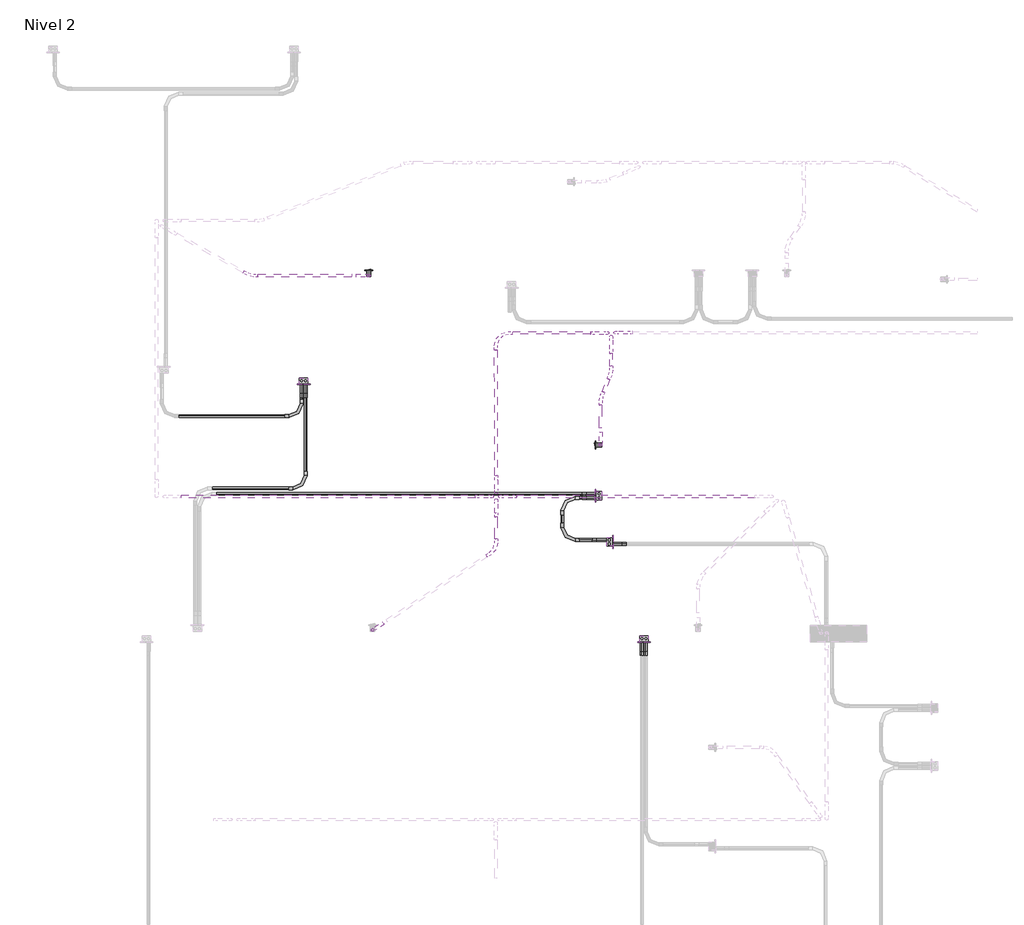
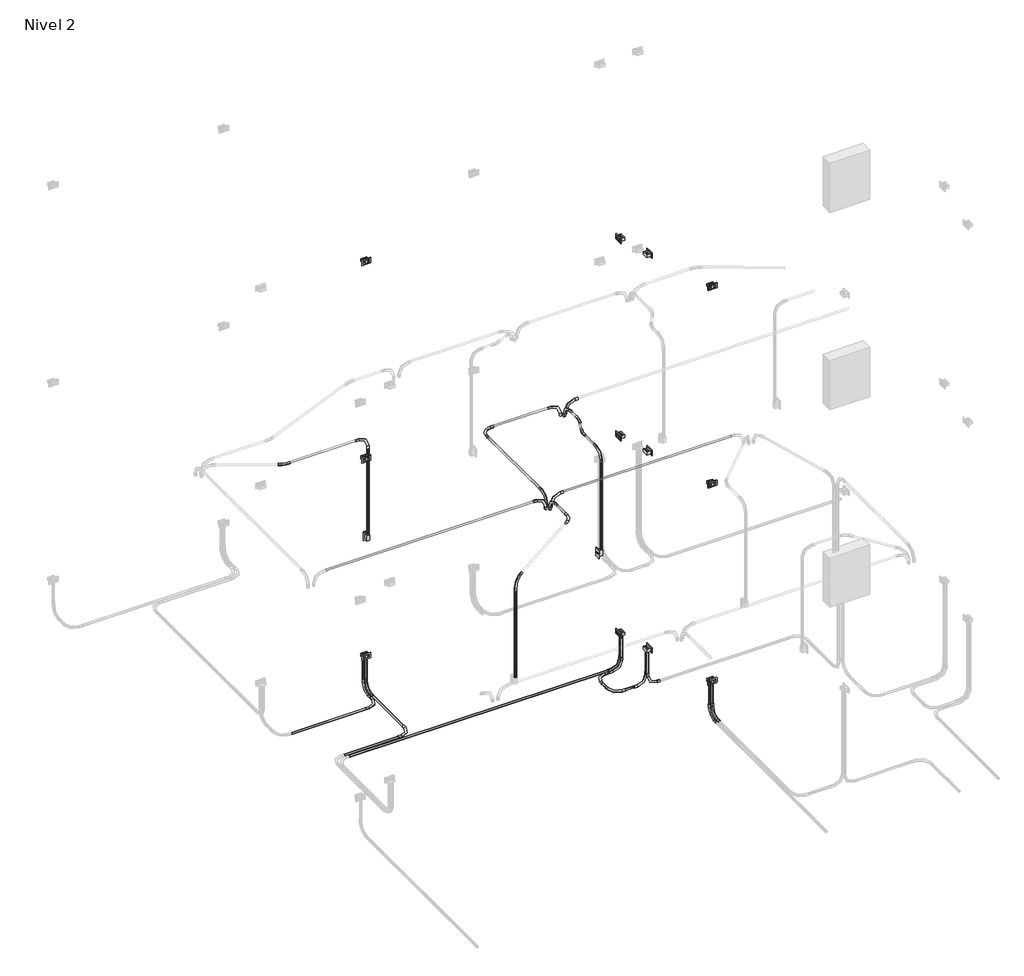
# One storey, part 8 of 10: 28 cable carrier segments, 27 cable carrier fittings, 12 proxies, 2 switching devices.
"""IFC4 building model written with IfcOpenShell, lengths in millimetres."""

from ifc_helpers import new_model, si_unit, point, frame, frame_2d, origin, place, context, project, spatial, circle_curve, trimmed, segment, composite_curve, outline, extrude, transform, mapped, element, save
from components import gfci_180f1b41, m_codo_de_tubo_extremo_liso_pvc_9da73e12, m_codo_de_tubo_extremo_liso_pvc_102f0f41, m_codo_de_tubo_extremo_liso_pvc_251627db, m_codo_de_tubo_extremo_liso_pvc_2ef7902a, m_codo_de_tubo_extremo_liso_pvc_be22f626, m_codo_de_tubo_extremo_liso_pvc_76d9b60b, switching_device_22fed34b

model = new_model("IFC4")

# Units and contexts
model_context = context("Model", 3, world=origin())
ifc_project = project(units=[si_unit("LENGTHUNIT", "METRE", prefix="MILLI")], contexts=[model_context])

# Site, building, storey
site = spatial("IfcSite", under=ifc_project)
building = spatial("IfcBuilding", under=site)
storey = spatial("IfcBuildingStorey", under=building, Name="Nivel 2", Elevation=2800.0)

# Proxies
placement = place(None, origin())
gfci_shape = gfci_180f1b41(model_context)
element("IfcBuildingElementProxy", 1, Name="Tomacorriente doble 220V : GFCI", ObjectType="Tomacorriente doble 220V : GFCI", at=placement, inside=storey, context=model_context, shape_type="MappedRepresentation", body=[
    mapped(gfci_shape, transform((675.4816931, 14533.4801072, 3200.0), x_axis=(0.0, 0.0, 1.0), y_axis=(-1.0, 0.0, 0.0), z_axis=(0.0, -1.0, 0.0))),
])
element("IfcBuildingElementProxy", 2, Name="Tomacorriente doble 220V : GFCI", ObjectType="Tomacorriente doble 220V : GFCI", at=placement, inside=storey, context=model_context, shape_type="MappedRepresentation", body=[
    mapped(gfci_shape, transform((3300.0005808, 13527.7405294, 3200.0), x_axis=(0.0, 0.0, 1.0), y_axis=(0.0, 1.0, 0.0), z_axis=(-1.0, 0.0, 0.0))),
])
element("IfcBuildingElementProxy", 3, Name="Tomacorriente doble 220V : GFCI", ObjectType="Tomacorriente doble 220V : GFCI", at=placement, inside=storey, context=model_context, shape_type="MappedRepresentation", body=[
    mapped(gfci_shape, transform((3732.031495, 12215.0, 3200.0), x_axis=(0.0, 0.0, 1.0), y_axis=(-1.0, 0.0, 0.0), z_axis=(0.0, -1.0, 0.0))),
])
element("IfcBuildingElementProxy", 4, Name="Tomacorriente doble 220V : GFCI", ObjectType="Tomacorriente doble 220V : GFCI", at=placement, inside=storey, context=model_context, shape_type="MappedRepresentation", body=[
    mapped(gfci_shape, transform((3450.0005808, 13113.3109987, 3200.0), x_axis=(0.0, 0.0, 1.0), y_axis=(0.0, -1.0, 0.0), z_axis=(1.0, 0.0, 0.0))),
])
element("IfcBuildingElementProxy", 5, Name="Tomacorriente doble 220V : GFCI", ObjectType="Tomacorriente doble 220V : GFCI", at=placement, inside=storey, context=model_context, shape_type="MappedRepresentation", body=[
    mapped(gfci_shape, transform((675.4816931, 14533.4801072, 5850.0), x_axis=(0.0, 0.0, 1.0), y_axis=(-1.0, 0.0, 0.0), z_axis=(0.0, -1.0, 0.0))),
])
element("IfcBuildingElementProxy", 6, Name="Tomacorriente doble 220V : GFCI", ObjectType="Tomacorriente doble 220V : GFCI", at=placement, inside=storey, context=model_context, shape_type="MappedRepresentation", body=[
    mapped(gfci_shape, transform((3300.0005808, 13527.7405294, 5850.0), x_axis=(0.0, 0.0, 1.0), y_axis=(0.0, 1.0, 0.0), z_axis=(-1.0, 0.0, 0.0))),
])
element("IfcBuildingElementProxy", 7, Name="Tomacorriente doble 220V : GFCI", ObjectType="Tomacorriente doble 220V : GFCI", at=placement, inside=storey, context=model_context, shape_type="MappedRepresentation", body=[
    mapped(gfci_shape, transform((3732.031495, 12215.0, 5850.0), x_axis=(0.0, 0.0, 1.0), y_axis=(-1.0, 0.0, 0.0), z_axis=(0.0, -1.0, 0.0))),
])
element("IfcBuildingElementProxy", 8, Name="Tomacorriente doble 220V : GFCI", ObjectType="Tomacorriente doble 220V : GFCI", at=placement, inside=storey, context=model_context, shape_type="MappedRepresentation", body=[
    mapped(gfci_shape, transform((3450.0005808, 13113.3109987, 5850.0), x_axis=(0.0, 0.0, 1.0), y_axis=(0.0, -1.0, 0.0), z_axis=(1.0, 0.0, 0.0))),
])
element("IfcBuildingElementProxy", 9, Name="Tomacorriente doble 220V : GFCI", ObjectType="Tomacorriente doble 220V : GFCI", at=placement, inside=storey, context=model_context, shape_type="MappedRepresentation", body=[
    mapped(gfci_shape, transform((675.4816931, 14533.4801072, 8500.0), x_axis=(0.0, 0.0, 1.0), y_axis=(-1.0, 0.0, 0.0), z_axis=(0.0, -1.0, 0.0))),
])
element("IfcBuildingElementProxy", 10, Name="Tomacorriente doble 220V : GFCI", ObjectType="Tomacorriente doble 220V : GFCI", at=placement, inside=storey, context=model_context, shape_type="MappedRepresentation", body=[
    mapped(gfci_shape, transform((3300.0005808, 13527.7405294, 8500.0), x_axis=(0.0, 0.0, 1.0), y_axis=(0.0, 1.0, 0.0), z_axis=(-1.0, 0.0, 0.0))),
])
element("IfcBuildingElementProxy", 11, Name="Tomacorriente doble 220V : GFCI", ObjectType="Tomacorriente doble 220V : GFCI", at=placement, inside=storey, context=model_context, shape_type="MappedRepresentation", body=[
    mapped(gfci_shape, transform((3732.031495, 12215.0, 8500.0), x_axis=(0.0, 0.0, 1.0), y_axis=(-1.0, 0.0, 0.0), z_axis=(0.0, -1.0, 0.0))),
])
element("IfcBuildingElementProxy", 12, Name="Tomacorriente doble 220V : GFCI", ObjectType="Tomacorriente doble 220V : GFCI", at=placement, inside=storey, context=model_context, shape_type="MappedRepresentation", body=[
    mapped(gfci_shape, transform((3450.0005808, 13113.3109987, 8500.0), x_axis=(0.0, 0.0, 1.0), y_axis=(0.0, -1.0, 0.0), z_axis=(1.0, 0.0, 0.0))),
])

# Cable carrier fittings
m_codo_de_tubo_extremo_liso_pvc_shape = m_codo_de_tubo_extremo_liso_pvc_9da73e12(model_context)
element("IfcCableCarrierFitting", 13, ObjectType="M_Codo de tubo - Extremo liso - PVC : CODO POTENCIA", at=placement, inside=storey, context=model_context, shape_type="MappedRepresentation", body=[
    mapped(m_codo_de_tubo_extremo_liso_pvc_shape, transform((693.5135129, 14563.117219, 2730.0), x_axis=(0.0, 0.0, -1.0), y_axis=(0.0, -1.0, 0.0), z_axis=(-1.0, 0.0, 0.0))),
])
element("IfcCableCarrierFitting", 14, ObjectType="M_Codo de tubo - Extremo liso - PVC : CODO POTENCIA", at=placement, inside=storey, context=model_context, shape_type="MappedRepresentation", body=[
    mapped(m_codo_de_tubo_extremo_liso_pvc_shape, transform((657.4498733, 14563.117219, 2730.0), x_axis=(0.0, 0.0, -1.0), y_axis=(0.0, -1.0, 0.0), z_axis=(-1.0, 0.0, 0.0))),
])
element("IfcCableCarrierFitting", 15, ObjectType="M_Codo de tubo - Extremo liso - PVC : CODO POTENCIA", at=placement, inside=storey, context=model_context, shape_type="MappedRepresentation", body=[
    mapped(m_codo_de_tubo_extremo_liso_pvc_shape, transform((3750.0633148, 12244.6371118, 2730.0), x_axis=(0.0, 0.0, -1.0), y_axis=(0.0, -1.0, 0.0), z_axis=(-1.0, 0.0, 0.0))),
])
element("IfcCableCarrierFitting", 16, ObjectType="M_Codo de tubo - Extremo liso - PVC : CODO POTENCIA", at=placement, inside=storey, context=model_context, shape_type="MappedRepresentation", body=[
    mapped(m_codo_de_tubo_extremo_liso_pvc_shape, transform((3713.9996751, 12244.6371118, 2730.0), x_axis=(0.0, 0.0, -1.0), y_axis=(0.0, -1.0, 0.0), z_axis=(-1.0, 0.0, 0.0))),
])
element("IfcCableCarrierFitting", 17, ObjectType="M_Codo de tubo - Extremo liso - PVC : CODO POTENCIA", at=placement, inside=storey, context=model_context, shape_type="MappedRepresentation", body=[
    mapped(m_codo_de_tubo_extremo_liso_pvc_shape, transform((3420.363469, 13095.2791789, 2730.0), x_axis=(0.0, 0.0, -1.0), y_axis=(1.0, 0.0, 0.0), z_axis=(0.0, -1.0, 0.0))),
])
element("IfcCableCarrierFitting", 18, ObjectType="M_Codo de tubo - Extremo liso - PVC : CODO POTENCIA", at=placement, inside=storey, context=model_context, shape_type="MappedRepresentation", body=[
    mapped(m_codo_de_tubo_extremo_liso_pvc_shape, transform((3329.6376926, 13509.7087096, 2730.0), x_axis=(0.0, 0.0, -1.0), y_axis=(-1.0, 0.0, 0.0), z_axis=(0.0, 1.0, 0.0))),
])
element("IfcCableCarrierFitting", 19, ObjectType="M_Codo de tubo - Extremo liso - PVC : CODO POTENCIA", at=placement, inside=storey, context=model_context, shape_type="MappedRepresentation", body=[
    mapped(m_codo_de_tubo_extremo_liso_pvc_shape, transform((3329.6376926, 13545.7723493, 2730.0), x_axis=(0.0, 0.0, -1.0), y_axis=(-1.0, 0.0, 0.0), z_axis=(0.0, 1.0, 0.0))),
])
element("IfcCableCarrierFitting", 20, ObjectType="M_Codo de tubo - Extremo liso - PVC : CODO POTENCIA", at=placement, inside=storey, context=model_context, shape_type="MappedRepresentation", body=[
    mapped(m_codo_de_tubo_extremo_liso_pvc_shape, transform((3000.0, 13509.7087096, 2730.0), x_axis=(-1.0, 0.0, 0.0), y_axis=(0.0, -1.0, 0.0), z_axis=(0.0, 0.0, 1.0))),
])
element("IfcCableCarrierFitting", 21, ObjectType="M_Codo de tubo - Extremo liso - PVC : CODO POTENCIA", at=placement, inside=storey, context=model_context, shape_type="MappedRepresentation", body=[
    mapped(m_codo_de_tubo_extremo_liso_pvc_shape, transform((3000.0, 13131.3428185, 2730.0), x_axis=(0.0, -1.0, 0.0), y_axis=(1.0, 0.0, 0.0), z_axis=(0.0, 0.0, 1.0))),
])
element("IfcCableCarrierFitting", 22, ObjectType="M_Codo de tubo - Extremo liso - PVC : CODO POTENCIA", at=placement, inside=storey, context=model_context, shape_type="MappedRepresentation", body=[
    mapped(m_codo_de_tubo_extremo_liso_pvc_shape, transform((3420.363469, 13131.3428185, 2730.0), x_axis=(0.0, 0.0, -1.0), y_axis=(-1.0, 0.0, 0.0), z_axis=(0.0, 1.0, 0.0))),
])
element("IfcCableCarrierFitting", 23, ObjectType="M_Codo de tubo - Extremo liso - PVC : CODO POTENCIA", at=placement, inside=storey, context=model_context, shape_type="MappedRepresentation", body=[
    mapped(m_codo_de_tubo_extremo_liso_pvc_shape, transform((693.5135129, 13596.0465616, 2730.0), x_axis=(1.0, 0.0, 0.0), y_axis=(0.0, 1.0, 0.0), z_axis=(0.0, 0.0, 1.0))),
])
element("IfcCableCarrierFitting", 24, ObjectType="M_Codo de tubo - Extremo liso - PVC : CODO POTENCIA", at=placement, inside=storey, context=model_context, shape_type="MappedRepresentation", body=[
    mapped(m_codo_de_tubo_extremo_liso_pvc_shape, transform((657.4498733, 14243.117219, 2730.0), x_axis=(1.0, 0.0, 0.0), y_axis=(0.0, 1.0, 0.0), z_axis=(0.0, 0.0, 1.0))),
])
element("IfcCableCarrierFitting", 25, ObjectType="M_Codo de tubo - Extremo liso - PVC : CODO ILUMINACION", at=placement, inside=storey, context=model_context, shape_type="MappedRepresentation", body=[
    mapped(m_codo_de_tubo_extremo_liso_pvc_shape, transform((3473.8320808, 14993.0705266, 5350.0), x_axis=(-1.0, 0.0, 0.0), y_axis=(0.0, 0.0, -1.0), z_axis=(0.0, -1.0, 0.0))),
])
element("IfcCableCarrierFitting", 26, ObjectType="M_Codo de tubo - Extremo liso - PVC : CODO ILUMINACION", at=placement, inside=storey, context=model_context, shape_type="MappedRepresentation", body=[
    mapped(m_codo_de_tubo_extremo_liso_pvc_shape, transform((2437.1421514, 13521.2601744, 5350.0), x_axis=(-1.0, 0.0, 0.0), y_axis=(0.0, 0.0, -1.0), z_axis=(0.0, -1.0, 0.0))),
])
element("IfcCableCarrierFitting", 27, ObjectType="M_Codo de tubo - Extremo liso - PVC : CODO ILUMINACION", at=placement, inside=storey, context=model_context, shape_type="MappedRepresentation", body=[
    mapped(m_codo_de_tubo_extremo_liso_pvc_shape, transform((1260.0916868, 15506.8611243, 5350.0), x_axis=(0.0, 0.0, 1.0), y_axis=(-1.0, 0.0, 0.0), z_axis=(0.0, -1.0, 0.0))),
])
element("IfcCableCarrierFitting", 28, ObjectType="M_Codo de tubo - Extremo liso - PVC : CODO ILUMINACION", at=placement, inside=storey, context=model_context, shape_type="MappedRepresentation", body=[
    mapped(m_codo_de_tubo_extremo_liso_pvc_shape, transform((3343.1394564, 13985.3219698, 5350.0), x_axis=(0.0, 0.0, 1.0), y_axis=(0.0, 1.0, 0.0), z_axis=(-1.0, 0.0, 0.0))),
])
element("IfcCableCarrierFitting", 29, ObjectType="M_Codo de tubo - Extremo liso - PVC : CODO ILUMINACION", at=placement, inside=storey, context=model_context, shape_type="MappedRepresentation", body=[
    mapped(m_codo_de_tubo_extremo_liso_pvc_shape, transform((2405.2097778, 13557.4891468, 5350.0), x_axis=(0.003624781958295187, -0.9999934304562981, 0.0), y_axis=(0.0, 0.0, -1.0000000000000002), z_axis=(0.9999934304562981, 0.003624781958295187, 0.0))),
])
element("IfcCableCarrierFitting", 30, ObjectType="M_Codo de tubo - Extremo liso - PVC : CODO ILUMINACION", at=placement, inside=storey, context=model_context, shape_type="MappedRepresentation", body=[
    mapped(m_codo_de_tubo_extremo_liso_pvc_shape, transform((1294.5944838, 12321.8611243, 5350.0), x_axis=(0.0, 0.0, 1.0), y_axis=(0.8386705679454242, 0.5446390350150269, 0.0), z_axis=(-0.5446390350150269, 0.8386705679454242, 0.0))),
])
m_codo_de_tubo_extremo_liso_pvc_2_shape = m_codo_de_tubo_extremo_liso_pvc_102f0f41(model_context)
element("IfcCableCarrierFitting", 31, ObjectType="M_Codo de tubo - Extremo liso - PVC : CODO ILUMINACION", at=placement, inside=storey, context=model_context, shape_type="MappedRepresentation", body=[
    mapped(m_codo_de_tubo_extremo_liso_pvc_2_shape, transform((3405.7998975, 14991.7385915, 5350.0), x_axis=(1.0, 0.0, 0.0), y_axis=(0.0, 0.0, 1.0), z_axis=(0.0, -1.0, 0.0))),
])
element("IfcCableCarrierFitting", 32, ObjectType="M_Codo de tubo - Extremo liso - PVC : CODO ILUMINACION", at=placement, inside=storey, context=model_context, shape_type="MappedRepresentation", body=[
    mapped(m_codo_de_tubo_extremo_liso_pvc_2_shape, transform((2369.1118904, 13521.2601744, 5350.0), x_axis=(1.0, 0.0, 0.0), y_axis=(0.0, 0.0, 1.0), z_axis=(0.0, -1.0, 0.0))),
])
element("IfcCableCarrierFitting", 33, ObjectType="M_Codo de tubo - Extremo liso - PVC : CODO ILUMINACION", at=placement, inside=storey, context=model_context, shape_type="MappedRepresentation", body=[
    mapped(m_codo_de_tubo_extremo_liso_pvc_2_shape, transform((3437.3696394, 14959.3016042, 5350.0), x_axis=(0.0, 1.0, 0.0), y_axis=(0.0, 0.0, 1.0), z_axis=(1.0, 0.0, 0.0))),
])
element("IfcCableCarrierFitting", 34, ObjectType="M_Codo de tubo - Extremo liso - PVC : CODO ILUMINACION", at=placement, inside=storey, context=model_context, shape_type="MappedRepresentation", body=[
    mapped(m_codo_de_tubo_extremo_liso_pvc_2_shape, transform((2405.2097778, 13489.4433397, 5350.0), x_axis=(0.003624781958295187, 0.9999934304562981, 0.0), y_axis=(0.0, 0.0, 1.0000000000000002), z_axis=(0.9999934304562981, -0.003624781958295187, 0.0))),
])
m_codo_de_tubo_extremo_liso_pvc_3_shape = m_codo_de_tubo_extremo_liso_pvc_251627db(model_context)
element("IfcCableCarrierFitting", 35, ObjectType="M_Codo de tubo - Extremo liso - PVC : CODO ILUMINACION", at=placement, inside=storey, context=model_context, shape_type="MappedRepresentation", body=[
    mapped(m_codo_de_tubo_extremo_liso_pvc_3_shape, transform((196.8317011, 15506.8611243, 5350.0), x_axis=(0.8722808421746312, -0.48900524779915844, 0.0), y_axis=(0.48900524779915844, 0.8722808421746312, 0.0), z_axis=(0.0, 0.0, 1.0))),
])
m_codo_de_tubo_extremo_liso_pvc_4_shape = m_codo_de_tubo_extremo_liso_pvc_2ef7902a(model_context)
element("IfcCableCarrierFitting", 36, ObjectType="M_Codo de tubo - Extremo liso - PVC : CODO ILUMINACION", at=placement, inside=storey, context=model_context, shape_type="MappedRepresentation", body=[
    mapped(m_codo_de_tubo_extremo_liso_pvc_4_shape, transform((3437.3696394, 14633.0300725, 5350.0), x_axis=(0.38237306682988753, 0.924008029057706, 0.0), y_axis=(-0.924008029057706, 0.38237306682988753, 0.0), z_axis=(0.0, 0.0, 1.0))),
])
element("IfcCableCarrierFitting", 37, ObjectType="M_Codo de tubo - Extremo liso - PVC : CODO ILUMINACION", at=placement, inside=storey, context=model_context, shape_type="MappedRepresentation", body=[
    mapped(m_codo_de_tubo_extremo_liso_pvc_4_shape, transform((3343.1394564, 14405.3219698, 5350.0), x_axis=(-0.3823730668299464, -0.9240080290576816, 0.0), y_axis=(0.9240080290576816, -0.3823730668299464, 0.0), z_axis=(0.0, 0.0, 1.0))),
])
m_codo_de_tubo_extremo_liso_pvc_5_shape = m_codo_de_tubo_extremo_liso_pvc_be22f626(model_context)
element("IfcCableCarrierFitting", 38, ObjectType="M_Codo de tubo - Extremo liso - PVC : CODO ILUMINACION", at=placement, inside=storey, context=model_context, shape_type="MappedRepresentation", body=[
    mapped(m_codo_de_tubo_extremo_liso_pvc_5_shape, transform((2400.0109021, 14991.7385915, 5350.0), x_axis=(-1.0, 0.0, 0.0), y_axis=(0.0, -1.0, 0.0), z_axis=(0.0, 0.0, 1.0))),
])
m_codo_de_tubo_extremo_liso_pvc_6_shape = m_codo_de_tubo_extremo_liso_pvc_76d9b60b(model_context)
element("IfcCableCarrierFitting", 39, ObjectType="M_Codo de tubo - Extremo liso - PVC : CODO ILUMINACION", at=placement, inside=storey, context=model_context, shape_type="MappedRepresentation", body=[
    mapped(m_codo_de_tubo_extremo_liso_pvc_6_shape, transform((2403.5880638, 13042.049976, 5350.0), x_axis=(0.8386705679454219, 0.5446390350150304, 0.0), y_axis=(-0.5446390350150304, 0.8386705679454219, 0.0), z_axis=(0.0, 0.0, 1.0))),
])

# Cable carrier segments
element("IfcCableCarrierSegment", 40, ObjectType="PVC-SEL, POTENCIA", at=placement, inside=storey, context=model_context, shape_type="SweptSolid", body=[
    extrude(outline(composite_curve([segment(trimmed(circle_curve(frame_2d((2730.0, 693.5135129)), 11.71), [point((2730.0, 681.8035129))], [point((2718.29, 693.5135129))], False, "CARTESIAN"), True, "CONTINUOUS"), segment(trimmed(circle_curve(frame_2d((2730.0, 693.5135129)), 11.71), [point((2718.29, 693.5135129))], [point((2730.0, 705.2235129))], False, "CARTESIAN"), True, "CONTINUOUS"), segment(trimmed(circle_curve(frame_2d((2730.0, 693.5135129)), 11.71), [point((2730.0, 705.2235129))], [point((2741.71, 693.5135129))], False, "CARTESIAN"), True, "CONTINUOUS"), segment(trimmed(circle_curve(frame_2d((2730.0, 693.5135129)), 11.71), [point((2741.71, 693.5135129))], [point((2730.0, 681.8035129))], False, "CARTESIAN"), True, "CONTINUOUS")], self_intersect=False)), frame((0.0, 13748.4465616, 0.0), z_axis=(0.0, 1.0, 0.0), x_axis=(0.0, 0.0, 1.0)), (0.0, 0.0, 1.0), 662.2706574),
])
element("IfcCableCarrierSegment", 41, ObjectType="PVC-SEL, POTENCIA", at=placement, inside=storey, context=model_context, shape_type="SweptSolid", body=[
    extrude(outline(composite_curve([segment(trimmed(circle_curve(frame_2d((693.5135129, 14563.117219)), 11.71), [point((705.2235129, 14563.117219))], [point((693.5135129, 14551.407219))], False, "CARTESIAN"), True, "CONTINUOUS"), segment(trimmed(circle_curve(frame_2d((693.5135129, 14563.117219)), 11.71), [point((693.5135129, 14551.407219))], [point((681.8035129, 14563.117219))], False, "CARTESIAN"), True, "CONTINUOUS"), segment(trimmed(circle_curve(frame_2d((693.5135129, 14563.117219)), 11.71), [point((681.8035129, 14563.117219))], [point((693.5135129, 14574.827219))], False, "CARTESIAN"), True, "CONTINUOUS"), segment(trimmed(circle_curve(frame_2d((693.5135129, 14563.117219)), 11.71), [point((693.5135129, 14574.827219))], [point((705.2235129, 14563.117219))], False, "CARTESIAN"), True, "CONTINUOUS")], self_intersect=False)), frame((0.0, 0.0, 2882.4), z_axis=(0.0, 0.0, 1.0), x_axis=(1.0, 0.0, 0.0)), (0.0, 0.0, 1.0), 297.3020537),
])
element("IfcCableCarrierSegment", 42, ObjectType="PVC-SEL, POTENCIA", at=placement, inside=storey, context=model_context, shape_type="SweptSolid", body=[
    extrude(outline(composite_curve([segment(trimmed(circle_curve(frame_2d((2730.0, 657.4498733)), 11.71), [point((2730.0, 645.7398733))], [point((2718.29, 657.4498733))], False, "CARTESIAN"), True, "CONTINUOUS"), segment(trimmed(circle_curve(frame_2d((2730.0, 657.4498733)), 11.71), [point((2718.29, 657.4498733))], [point((2730.0, 669.1598733))], False, "CARTESIAN"), True, "CONTINUOUS"), segment(trimmed(circle_curve(frame_2d((2730.0, 657.4498733)), 11.71), [point((2730.0, 669.1598733))], [point((2741.71, 657.4498733))], False, "CARTESIAN"), True, "CONTINUOUS"), segment(trimmed(circle_curve(frame_2d((2730.0, 657.4498733)), 11.71), [point((2741.71, 657.4498733))], [point((2730.0, 645.7398733))], False, "CARTESIAN"), True, "CONTINUOUS")], self_intersect=False)), frame((0.0, 14395.517219, 0.0), z_axis=(0.0, 1.0, 0.0), x_axis=(0.0, 0.0, 1.0)), (0.0, 0.0, 1.0), 15.2),
])
element("IfcCableCarrierSegment", 43, ObjectType="PVC-SEL, POTENCIA", at=placement, inside=storey, context=model_context, shape_type="SweptSolid", body=[
    extrude(outline(composite_curve([segment(trimmed(circle_curve(frame_2d((657.4498733, 14563.117219)), 11.71), [point((669.1598733, 14563.117219))], [point((657.4498733, 14551.407219))], False, "CARTESIAN"), True, "CONTINUOUS"), segment(trimmed(circle_curve(frame_2d((657.4498733, 14563.117219)), 11.71), [point((657.4498733, 14551.407219))], [point((645.7398733, 14563.117219))], False, "CARTESIAN"), True, "CONTINUOUS"), segment(trimmed(circle_curve(frame_2d((657.4498733, 14563.117219)), 11.71), [point((645.7398733, 14563.117219))], [point((657.4498733, 14574.827219))], False, "CARTESIAN"), True, "CONTINUOUS"), segment(trimmed(circle_curve(frame_2d((657.4498733, 14563.117219)), 11.71), [point((657.4498733, 14574.827219))], [point((669.1598733, 14563.117219))], False, "CARTESIAN"), True, "CONTINUOUS")], self_intersect=False)), frame((0.0, 0.0, 2882.4), z_axis=(0.0, 0.0, 1.0), x_axis=(1.0, 0.0, 0.0)), (0.0, 0.0, 1.0), 297.3020537),
])
element("IfcCableCarrierSegment", 44, ObjectType="PVC-SEL, POTENCIA", at=placement, inside=storey, context=model_context, shape_type="SweptSolid", body=[
    extrude(outline(composite_curve([segment(trimmed(circle_curve(frame_2d((3750.0633148, 12244.6371118)), 11.71), [point((3761.7733148, 12244.6371118))], [point((3750.0633148, 12232.9271118))], False, "CARTESIAN"), True, "CONTINUOUS"), segment(trimmed(circle_curve(frame_2d((3750.0633148, 12244.6371118)), 11.71), [point((3750.0633148, 12232.9271118))], [point((3738.3533148, 12244.6371118))], False, "CARTESIAN"), True, "CONTINUOUS"), segment(trimmed(circle_curve(frame_2d((3750.0633148, 12244.6371118)), 11.71), [point((3738.3533148, 12244.6371118))], [point((3750.0633148, 12256.3471118))], False, "CARTESIAN"), True, "CONTINUOUS"), segment(trimmed(circle_curve(frame_2d((3750.0633148, 12244.6371118)), 11.71), [point((3750.0633148, 12256.3471118))], [point((3761.7733148, 12244.6371118))], False, "CARTESIAN"), True, "CONTINUOUS")], self_intersect=False)), frame((0.0, 0.0, 2882.4), z_axis=(0.0, 0.0, 1.0), x_axis=(1.0, 0.0, 0.0)), (0.0, 0.0, 1.0), 297.3020537),
])
element("IfcCableCarrierSegment", 45, ObjectType="PVC-SEL, POTENCIA", at=placement, inside=storey, context=model_context, shape_type="SweptSolid", body=[
    extrude(outline(composite_curve([segment(trimmed(circle_curve(frame_2d((3713.9996751, 12244.6371118)), 11.71), [point((3725.7096751, 12244.6371118))], [point((3713.9996751, 12232.9271118))], False, "CARTESIAN"), True, "CONTINUOUS"), segment(trimmed(circle_curve(frame_2d((3713.9996751, 12244.6371118)), 11.71), [point((3713.9996751, 12232.9271118))], [point((3702.2896751, 12244.6371118))], False, "CARTESIAN"), True, "CONTINUOUS"), segment(trimmed(circle_curve(frame_2d((3713.9996751, 12244.6371118)), 11.71), [point((3702.2896751, 12244.6371118))], [point((3713.9996751, 12256.3471118))], False, "CARTESIAN"), True, "CONTINUOUS"), segment(trimmed(circle_curve(frame_2d((3713.9996751, 12244.6371118)), 11.71), [point((3713.9996751, 12256.3471118))], [point((3725.7096751, 12244.6371118))], False, "CARTESIAN"), True, "CONTINUOUS")], self_intersect=False)), frame((0.0, 0.0, 2882.4), z_axis=(0.0, 0.0, 1.0), x_axis=(1.0, 0.0, 0.0)), (0.0, 0.0, 1.0), 297.3020537),
])
element("IfcCableCarrierSegment", 46, ObjectType="PVC-SEL, POTENCIA", at=placement, inside=storey, context=model_context, shape_type="SweptSolid", body=[
    extrude(outline(composite_curve([segment(trimmed(circle_curve(frame_2d((3420.363469, 13095.2791789)), 11.71), [point((3432.073469, 13095.2791789))], [point((3420.363469, 13083.5691789))], False, "CARTESIAN"), True, "CONTINUOUS"), segment(trimmed(circle_curve(frame_2d((3420.363469, 13095.2791789)), 11.71), [point((3420.363469, 13083.5691789))], [point((3408.653469, 13095.2791789))], False, "CARTESIAN"), True, "CONTINUOUS"), segment(trimmed(circle_curve(frame_2d((3420.363469, 13095.2791789)), 11.71), [point((3408.653469, 13095.2791789))], [point((3420.363469, 13106.9891789))], False, "CARTESIAN"), True, "CONTINUOUS"), segment(trimmed(circle_curve(frame_2d((3420.363469, 13095.2791789)), 11.71), [point((3420.363469, 13106.9891789))], [point((3432.073469, 13095.2791789))], False, "CARTESIAN"), True, "CONTINUOUS")], self_intersect=False)), frame((0.0, 0.0, 2882.4), z_axis=(0.0, 0.0, 1.0), x_axis=(1.0, 0.0, 0.0)), (0.0, 0.0, 1.0), 297.3020537),
])
element("IfcCableCarrierSegment", 47, ObjectType="PVC-SEL, POTENCIA", at=placement, inside=storey, context=model_context, shape_type="SweptSolid", body=[
    extrude(outline(composite_curve([segment(trimmed(circle_curve(frame_2d((13131.3428185, 2730.0)), 11.71), [point((13119.6328185, 2730.0))], [point((13131.3428185, 2741.71))], False, "CARTESIAN"), True, "CONTINUOUS"), segment(trimmed(circle_curve(frame_2d((13131.3428185, 2730.0)), 11.71), [point((13131.3428185, 2741.71))], [point((13143.0528185, 2730.0))], False, "CARTESIAN"), True, "CONTINUOUS"), segment(trimmed(circle_curve(frame_2d((13131.3428185, 2730.0)), 11.71), [point((13143.0528185, 2730.0))], [point((13131.3428185, 2718.29))], False, "CARTESIAN"), True, "CONTINUOUS"), segment(trimmed(circle_curve(frame_2d((13131.3428185, 2730.0)), 11.71), [point((13131.3428185, 2718.29))], [point((13119.6328185, 2730.0))], False, "CARTESIAN"), True, "CONTINUOUS")], self_intersect=False)), frame((3152.4, 0.0, 0.0), z_axis=(1.0, 0.0, 0.0), x_axis=(0.0, 1.0, 0.0)), (0.0, 0.0, 1.0), 115.563469),
])
element("IfcCableCarrierSegment", 48, ObjectType="PVC-SEL, POTENCIA", at=placement, inside=storey, context=model_context, shape_type="SweptSolid", body=[
    extrude(outline(composite_curve([segment(trimmed(circle_curve(frame_2d((3420.363469, 13131.3428185)), 11.71), [point((3432.073469, 13131.3428185))], [point((3420.363469, 13119.6328185))], False, "CARTESIAN"), True, "CONTINUOUS"), segment(trimmed(circle_curve(frame_2d((3420.363469, 13131.3428185)), 11.71), [point((3420.363469, 13119.6328185))], [point((3408.653469, 13131.3428185))], False, "CARTESIAN"), True, "CONTINUOUS"), segment(trimmed(circle_curve(frame_2d((3420.363469, 13131.3428185)), 11.71), [point((3408.653469, 13131.3428185))], [point((3420.363469, 13143.0528185))], False, "CARTESIAN"), True, "CONTINUOUS"), segment(trimmed(circle_curve(frame_2d((3420.363469, 13131.3428185)), 11.71), [point((3420.363469, 13143.0528185))], [point((3432.073469, 13131.3428185))], False, "CARTESIAN"), True, "CONTINUOUS")], self_intersect=False)), frame((0.0, 0.0, 2882.4), z_axis=(0.0, 0.0, 1.0), x_axis=(1.0, 0.0, 0.0)), (0.0, 0.0, 1.0), 297.3020537),
])
element("IfcCableCarrierSegment", 49, ObjectType="PVC-SEL, POTENCIA", at=placement, inside=storey, context=model_context, shape_type="SweptSolid", body=[
    extrude(outline(composite_curve([segment(trimmed(circle_curve(frame_2d((13509.7087096, 2730.0)), 11.71), [point((13521.4187096, 2730.0))], [point((13509.7087096, 2718.29))], False, "CARTESIAN"), True, "CONTINUOUS"), segment(trimmed(circle_curve(frame_2d((13509.7087096, 2730.0)), 11.71), [point((13509.7087096, 2718.29))], [point((13497.9987096, 2730.0))], False, "CARTESIAN"), True, "CONTINUOUS"), segment(trimmed(circle_curve(frame_2d((13509.7087096, 2730.0)), 11.71), [point((13497.9987096, 2730.0))], [point((13509.7087096, 2741.71))], False, "CARTESIAN"), True, "CONTINUOUS"), segment(trimmed(circle_curve(frame_2d((13509.7087096, 2730.0)), 11.71), [point((13509.7087096, 2741.71))], [point((13521.4187096, 2730.0))], False, "CARTESIAN"), True, "CONTINUOUS")], self_intersect=False)), frame((3152.4, 0.0, 0.0), z_axis=(1.0, 0.0, 0.0), x_axis=(0.0, 1.0, 0.0)), (0.0, 0.0, 1.0), 24.8376926),
])
element("IfcCableCarrierSegment", 50, ObjectType="PVC-SEL, POTENCIA", at=placement, inside=storey, context=model_context, shape_type="SweptSolid", body=[
    extrude(outline(composite_curve([segment(trimmed(circle_curve(frame_2d((3329.6376926, 13509.7087096)), 11.71), [point((3341.3476926, 13509.7087096))], [point((3329.6376926, 13497.9987096))], False, "CARTESIAN"), True, "CONTINUOUS"), segment(trimmed(circle_curve(frame_2d((3329.6376926, 13509.7087096)), 11.71), [point((3329.6376926, 13497.9987096))], [point((3317.9276926, 13509.7087096))], False, "CARTESIAN"), True, "CONTINUOUS"), segment(trimmed(circle_curve(frame_2d((3329.6376926, 13509.7087096)), 11.71), [point((3317.9276926, 13509.7087096))], [point((3329.6376926, 13521.4187096))], False, "CARTESIAN"), True, "CONTINUOUS"), segment(trimmed(circle_curve(frame_2d((3329.6376926, 13509.7087096)), 11.71), [point((3329.6376926, 13521.4187096))], [point((3341.3476926, 13509.7087096))], False, "CARTESIAN"), True, "CONTINUOUS")], self_intersect=False)), frame((0.0, 0.0, 2882.4), z_axis=(0.0, 0.0, 1.0), x_axis=(1.0, 0.0, 0.0)), (0.0, 0.0, 1.0), 297.3020537),
])
element("IfcCableCarrierSegment", 51, ObjectType="PVC-SEL, POTENCIA", at=placement, inside=storey, context=model_context, shape_type="SweptSolid", body=[
    extrude(outline(composite_curve([segment(trimmed(circle_curve(frame_2d((13545.7723493, 2730.0)), 11.71), [point((13557.4823493, 2730.0))], [point((13545.7723493, 2718.29))], False, "CARTESIAN"), True, "CONTINUOUS"), segment(trimmed(circle_curve(frame_2d((13545.7723493, 2730.0)), 11.71), [point((13545.7723493, 2718.29))], [point((13534.0623493, 2730.0))], False, "CARTESIAN"), True, "CONTINUOUS"), segment(trimmed(circle_curve(frame_2d((13545.7723493, 2730.0)), 11.71), [point((13534.0623493, 2730.0))], [point((13545.7723493, 2741.71))], False, "CARTESIAN"), True, "CONTINUOUS"), segment(trimmed(circle_curve(frame_2d((13545.7723493, 2730.0)), 11.71), [point((13545.7723493, 2741.71))], [point((13557.4823493, 2730.0))], False, "CARTESIAN"), True, "CONTINUOUS")], self_intersect=False)), frame((-109.6312302, 0.0, 0.0), z_axis=(1.0, 0.0, 0.0), x_axis=(0.0, 1.0, 0.0)), (0.0, 0.0, 1.0), 3286.8689227),
])
element("IfcCableCarrierSegment", 52, ObjectType="PVC-SEL, POTENCIA", at=placement, inside=storey, context=model_context, shape_type="SweptSolid", body=[
    extrude(outline(composite_curve([segment(trimmed(circle_curve(frame_2d((3329.6376926, 13545.7723493)), 11.71), [point((3341.3476926, 13545.7723493))], [point((3329.6376926, 13534.0623493))], False, "CARTESIAN"), True, "CONTINUOUS"), segment(trimmed(circle_curve(frame_2d((3329.6376926, 13545.7723493)), 11.71), [point((3329.6376926, 13534.0623493))], [point((3317.9276926, 13545.7723493))], False, "CARTESIAN"), True, "CONTINUOUS"), segment(trimmed(circle_curve(frame_2d((3329.6376926, 13545.7723493)), 11.71), [point((3317.9276926, 13545.7723493))], [point((3329.6376926, 13557.4823493))], False, "CARTESIAN"), True, "CONTINUOUS"), segment(trimmed(circle_curve(frame_2d((3329.6376926, 13545.7723493)), 11.71), [point((3329.6376926, 13557.4823493))], [point((3341.3476926, 13545.7723493))], False, "CARTESIAN"), True, "CONTINUOUS")], self_intersect=False)), frame((0.0, 0.0, 2882.4), z_axis=(0.0, 0.0, 1.0), x_axis=(1.0, 0.0, 0.0)), (0.0, 0.0, 1.0), 297.3020537),
])
element("IfcCableCarrierSegment", 53, ObjectType="PVC-SEL, POTENCIA", at=placement, inside=storey, context=model_context, shape_type="SweptSolid", body=[
    extrude(outline(composite_curve([segment(trimmed(circle_curve(frame_2d((2730.0, 3000.0)), 11.71), [point((2730.0, 2988.29))], [point((2718.29, 3000.0))], False, "CARTESIAN"), True, "CONTINUOUS"), segment(trimmed(circle_curve(frame_2d((2730.0, 3000.0)), 11.71), [point((2718.29, 3000.0))], [point((2730.0, 3011.71))], False, "CARTESIAN"), True, "CONTINUOUS"), segment(trimmed(circle_curve(frame_2d((2730.0, 3000.0)), 11.71), [point((2730.0, 3011.71))], [point((2741.71, 3000.0))], False, "CARTESIAN"), True, "CONTINUOUS"), segment(trimmed(circle_curve(frame_2d((2730.0, 3000.0)), 11.71), [point((2741.71, 3000.0))], [point((2730.0, 2988.29))], False, "CARTESIAN"), True, "CONTINUOUS")], self_intersect=False)), frame((0.0, 13283.7428185, 0.0), z_axis=(0.0, 1.0, 0.0), x_axis=(0.0, 0.0, 1.0)), (0.0, 0.0, 1.0), 73.5658911),
])
element("IfcCableCarrierSegment", 54, ObjectType="PVC-SEL, POTENCIA", at=placement, inside=storey, context=model_context, shape_type="SweptSolid", body=[
    extrude(outline(composite_curve([segment(trimmed(circle_curve(frame_2d((13596.0465616, 2730.0)), 11.71), [point((13607.7565616, 2730.0))], [point((13596.0465616, 2718.29))], False, "CARTESIAN"), True, "CONTINUOUS"), segment(trimmed(circle_curve(frame_2d((13596.0465616, 2730.0)), 11.71), [point((13596.0465616, 2718.29))], [point((13584.3365616, 2730.0))], False, "CARTESIAN"), True, "CONTINUOUS"), segment(trimmed(circle_curve(frame_2d((13596.0465616, 2730.0)), 11.71), [point((13584.3365616, 2730.0))], [point((13596.0465616, 2741.71))], False, "CARTESIAN"), True, "CONTINUOUS"), segment(trimmed(circle_curve(frame_2d((13596.0465616, 2730.0)), 11.71), [point((13596.0465616, 2741.71))], [point((13607.7565616, 2730.0))], False, "CARTESIAN"), True, "CONTINUOUS")], self_intersect=False)), frame((-145.6948698, 0.0, 0.0), z_axis=(1.0, 0.0, 0.0), x_axis=(0.0, 1.0, 0.0)), (0.0, 0.0, 1.0), 686.8083827),
])
element("IfcCableCarrierSegment", 55, ObjectType="PVC-SEL, POTENCIA", at=placement, inside=storey, context=model_context, shape_type="SweptSolid", body=[
    extrude(outline(composite_curve([segment(trimmed(circle_curve(frame_2d((14243.117219, 2730.0)), 11.71), [point((14254.827219, 2730.0))], [point((14243.117219, 2718.29))], False, "CARTESIAN"), True, "CONTINUOUS"), segment(trimmed(circle_curve(frame_2d((14243.117219, 2730.0)), 11.71), [point((14243.117219, 2718.29))], [point((14231.407219, 2730.0))], False, "CARTESIAN"), True, "CONTINUOUS"), segment(trimmed(circle_curve(frame_2d((14243.117219, 2730.0)), 11.71), [point((14231.407219, 2730.0))], [point((14243.117219, 2741.71))], False, "CARTESIAN"), True, "CONTINUOUS"), segment(trimmed(circle_curve(frame_2d((14243.117219, 2730.0)), 11.71), [point((14243.117219, 2741.71))], [point((14254.827219, 2730.0))], False, "CARTESIAN"), True, "CONTINUOUS")], self_intersect=False)), frame((-445.7296744, 0.0, 0.0), z_axis=(1.0, 0.0, 0.0), x_axis=(0.0, 1.0, 0.0)), (0.0, 0.0, 1.0), 950.7795477),
])
element("IfcCableCarrierSegment", 56, ObjectType="PVC-SEL ILUMINACION", at=placement, inside=storey, context=model_context, shape_type="SweptSolid", body=[
    extrude(outline(composite_curve([segment(trimmed(circle_curve(frame_2d((13521.2601744, 5350.0)), 11.71), [point((13532.9701744, 5350.0))], [point((13521.2601744, 5338.29))], False, "CARTESIAN"), True, "CONTINUOUS"), segment(trimmed(circle_curve(frame_2d((13521.2601744, 5350.0)), 11.71), [point((13521.2601744, 5338.29))], [point((13509.5501744, 5350.0))], False, "CARTESIAN"), True, "CONTINUOUS"), segment(trimmed(circle_curve(frame_2d((13521.2601744, 5350.0)), 11.71), [point((13509.5501744, 5350.0))], [point((13521.2601744, 5361.71))], False, "CARTESIAN"), True, "CONTINUOUS"), segment(trimmed(circle_curve(frame_2d((13521.2601744, 5350.0)), 11.71), [point((13521.2601744, 5361.71))], [point((13532.9701744, 5350.0))], False, "CARTESIAN"), True, "CONTINUOUS")], self_intersect=False)), frame((-422.3554902, 0.0, 0.0), z_axis=(1.0, 0.0, 0.0), x_axis=(0.0, 1.0, 0.0)), (0.0, 0.0, 1.0), 2639.0673806),
])
element("IfcCableCarrierSegment", 57, ObjectType="PVC-SEL ILUMINACION", at=placement, inside=storey, context=model_context, shape_type="SweptSolid", body=[
    extrude(outline(composite_curve([segment(trimmed(circle_curve(frame_2d((13521.2601744, 5350.0)), 11.71), [point((13532.9701744, 5350.0))], [point((13521.2601744, 5338.29))], False, "CARTESIAN"), True, "CONTINUOUS"), segment(trimmed(circle_curve(frame_2d((13521.2601744, 5350.0)), 11.71), [point((13521.2601744, 5338.29))], [point((13509.5501744, 5350.0))], False, "CARTESIAN"), True, "CONTINUOUS"), segment(trimmed(circle_curve(frame_2d((13521.2601744, 5350.0)), 11.71), [point((13509.5501744, 5350.0))], [point((13521.2601744, 5361.71))], False, "CARTESIAN"), True, "CONTINUOUS"), segment(trimmed(circle_curve(frame_2d((13521.2601744, 5350.0)), 11.71), [point((13521.2601744, 5361.71))], [point((13532.9701744, 5350.0))], False, "CARTESIAN"), True, "CONTINUOUS")], self_intersect=False)), frame((2589.5421514, 0.0, 0.0), z_axis=(1.0, 0.0, 0.0), x_axis=(0.0, 1.0, 0.0)), (0.0, 0.0, 1.0), 2137.8985062),
])
element("IfcCableCarrierSegment", 58, ObjectType="PVC-SEL ILUMINACION", at=placement, inside=storey, context=model_context, shape_type="SweptSolid", body=[
    extrude(outline(composite_curve([segment(trimmed(circle_curve(frame_2d((15506.8611243, 5350.0)), 11.71), [point((15518.5711243, 5350.0))], [point((15506.8611243, 5338.29))], False, "CARTESIAN"), True, "CONTINUOUS"), segment(trimmed(circle_curve(frame_2d((15506.8611243, 5350.0)), 11.71), [point((15506.8611243, 5338.29))], [point((15495.1511243, 5350.0))], False, "CARTESIAN"), True, "CONTINUOUS"), segment(trimmed(circle_curve(frame_2d((15506.8611243, 5350.0)), 11.71), [point((15495.1511243, 5350.0))], [point((15506.8611243, 5361.71))], False, "CARTESIAN"), True, "CONTINUOUS"), segment(trimmed(circle_curve(frame_2d((15506.8611243, 5350.0)), 11.71), [point((15506.8611243, 5361.71))], [point((15518.5711243, 5350.0))], False, "CARTESIAN"), True, "CONTINUOUS")], self_intersect=False)), frame((264.7847545, 0.0, 0.0), z_axis=(1.0, 0.0, 0.0), x_axis=(0.0, 1.0, 0.0)), (0.0, 0.0, 1.0), 842.9069324),
])
element("IfcCableCarrierSegment", 59, ObjectType="PVC-SEL ILUMINACION", at=placement, inside=storey, context=model_context, shape_type="SweptSolid", body=[
    extrude(outline(composite_curve([segment(trimmed(circle_curve(frame_2d((1260.0916868, 15506.8611243)), 11.71), [point((1248.3816868, 15506.8611243))], [point((1260.0916868, 15518.5711243))], False, "CARTESIAN"), True, "CONTINUOUS"), segment(trimmed(circle_curve(frame_2d((1260.0916868, 15506.8611243)), 11.71), [point((1260.0916868, 15518.5711243))], [point((1271.8016868, 15506.8611243))], False, "CARTESIAN"), True, "CONTINUOUS"), segment(trimmed(circle_curve(frame_2d((1260.0916868, 15506.8611243)), 11.71), [point((1271.8016868, 15506.8611243))], [point((1260.0916868, 15495.1511243))], False, "CARTESIAN"), True, "CONTINUOUS"), segment(trimmed(circle_curve(frame_2d((1260.0916868, 15506.8611243)), 11.71), [point((1260.0916868, 15495.1511243))], [point((1248.3816868, 15506.8611243))], False, "CARTESIAN"), True, "CONTINUOUS")], self_intersect=False)), frame((0.0, 0.0, 4040.2227463), z_axis=(0.0, 0.0, 1.0), x_axis=(1.0, 0.0, 0.0)), (0.0, 0.0, 1.0), 1157.3772537),
])
element("IfcCableCarrierSegment", 60, ObjectType="PVC-SEL ILUMINACION", at=placement, inside=storey, context=model_context, shape_type="SweptSolid", body=[
    extrude(outline(composite_curve([segment(trimmed(circle_curve(frame_2d((5350.0, 3343.1394564)), 11.71), [point((5350.0, 3354.8494564))], [point((5361.71, 3343.1394564))], False, "CARTESIAN"), True, "CONTINUOUS"), segment(trimmed(circle_curve(frame_2d((5350.0, 3343.1394564)), 11.71), [point((5361.71, 3343.1394564))], [point((5350.0, 3331.4294564))], False, "CARTESIAN"), True, "CONTINUOUS"), segment(trimmed(circle_curve(frame_2d((5350.0, 3343.1394564)), 11.71), [point((5350.0, 3331.4294564))], [point((5338.29, 3343.1394564))], False, "CARTESIAN"), True, "CONTINUOUS"), segment(trimmed(circle_curve(frame_2d((5350.0, 3343.1394564)), 11.71), [point((5338.29, 3343.1394564))], [point((5350.0, 3354.8494564))], False, "CARTESIAN"), True, "CONTINUOUS")], self_intersect=False)), frame((0.0, 14137.7219698, 0.0), z_axis=(0.0, 1.0, 0.0), x_axis=(0.0, 0.0, 1.0)), (0.0, 0.0, 1.0), 206.7842728),
])
element("IfcCableCarrierSegment", 61, ObjectType="PVC-SEL ILUMINACION", at=placement, inside=storey, context=model_context, shape_type="SweptSolid", body=[
    extrude(outline(composite_curve([segment(trimmed(circle_curve(frame_2d((3343.1394564, 13985.3219698)), 11.71), [point((3331.4294564, 13985.3219698))], [point((3343.1394564, 13997.0319698))], False, "CARTESIAN"), True, "CONTINUOUS"), segment(trimmed(circle_curve(frame_2d((3343.1394564, 13985.3219698)), 11.71), [point((3343.1394564, 13997.0319698))], [point((3354.8494564, 13985.3219698))], False, "CARTESIAN"), True, "CONTINUOUS"), segment(trimmed(circle_curve(frame_2d((3343.1394564, 13985.3219698)), 11.71), [point((3354.8494564, 13985.3219698))], [point((3343.1394564, 13973.6119698))], False, "CARTESIAN"), True, "CONTINUOUS"), segment(trimmed(circle_curve(frame_2d((3343.1394564, 13985.3219698)), 11.71), [point((3343.1394564, 13973.6119698))], [point((3331.4294564, 13985.3219698))], False, "CARTESIAN"), True, "CONTINUOUS")], self_intersect=False)), frame((0.0, 0.0, 4040.2227463), z_axis=(0.0, 0.0, 1.0), x_axis=(1.0, 0.0, 0.0)), (0.0, 0.0, 1.0), 1157.3772537),
])
element("IfcCableCarrierSegment", 62, ObjectType="PVC-SEL ILUMINACION", at=placement, inside=storey, context=model_context, shape_type="SweptSolid", body=[
    extrude(outline(composite_curve([segment(trimmed(circle_curve(frame_2d((0.0, -11.71)), 11.71), [point((-11.71, -11.71))], [point((0.0, 0.0))], False, "CARTESIAN"), True, "CONTINUOUS"), segment(trimmed(circle_curve(frame_2d((0.0, -11.71)), 11.71), [point((0.0, 0.0))], [point((11.71, -11.71))], False, "CARTESIAN"), True, "CONTINUOUS"), segment(trimmed(circle_curve(frame_2d((0.0, -11.71)), 11.71), [point((11.71, -11.71))], [point((0.0, -23.42))], False, "CARTESIAN"), True, "CONTINUOUS"), segment(trimmed(circle_curve(frame_2d((0.0, -11.71)), 11.71), [point((0.0, -23.42))], [point((-11.71, -11.71))], False, "CARTESIAN"), True, "CONTINUOUS")], self_intersect=False)), frame((3366.3937526, 14461.51619, 5338.29), z_axis=(0.3823730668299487, 0.9240080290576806, 0.0), x_axis=(0.9240080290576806, -0.3823730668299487, 0.0)), (0.0, 0.0, 1.0), 124.8037448),
])
element("IfcCableCarrierSegment", 63, ObjectType="PVC-SEL ILUMINACION", at=placement, inside=storey, context=model_context, shape_type="SweptSolid", body=[
    extrude(outline(composite_curve([segment(trimmed(circle_curve(frame_2d((5350.0, 3437.3696394)), 11.71), [point((5350.0, 3425.6596394))], [point((5338.29, 3437.3696394))], False, "CARTESIAN"), True, "CONTINUOUS"), segment(trimmed(circle_curve(frame_2d((5350.0, 3437.3696394)), 11.71), [point((5338.29, 3437.3696394))], [point((5350.0, 3449.0796394))], False, "CARTESIAN"), True, "CONTINUOUS"), segment(trimmed(circle_curve(frame_2d((5350.0, 3437.3696394)), 11.71), [point((5350.0, 3449.0796394))], [point((5361.71, 3437.3696394))], False, "CARTESIAN"), True, "CONTINUOUS"), segment(trimmed(circle_curve(frame_2d((5350.0, 3437.3696394)), 11.71), [point((5361.71, 3437.3696394))], [point((5350.0, 3425.6596394))], False, "CARTESIAN"), True, "CONTINUOUS")], self_intersect=False)), frame((0.0, 14693.8457997, 0.0), z_axis=(0.0, 1.0, 0.0), x_axis=(0.0, 0.0, 1.0)), (0.0, 0.0, 1.0), 113.0558045),
])
element("IfcCableCarrierSegment", 64, ObjectType="PVC-SEL ILUMINACION", at=placement, inside=storey, context=model_context, shape_type="SweptSolid", body=[
    extrude(outline(composite_curve([segment(trimmed(circle_curve(frame_2d((0.0, -11.71)), 11.71), [point((-11.7099999, -11.71))], [point((0.0, 0.0))], False, "CARTESIAN"), True, "CONTINUOUS"), segment(trimmed(circle_curve(frame_2d((0.0, -11.71)), 11.71), [point((0.0, 0.0))], [point((11.71, -11.71))], False, "CARTESIAN"), True, "CONTINUOUS"), segment(trimmed(circle_curve(frame_2d((0.0, -11.71)), 11.71), [point((11.71, -11.71))], [point((0.0, -23.42))], False, "CARTESIAN"), True, "CONTINUOUS"), segment(trimmed(circle_curve(frame_2d((0.0, -11.71)), 11.71), [point((0.0, -23.42))], [point((-11.7099999, -11.71))], False, "CARTESIAN"), True, "CONTINUOUS")], self_intersect=False)), frame((2404.657361, 13709.8881456, 5338.29), z_axis=(-0.003624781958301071, 0.9999934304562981, 0.0), x_axis=(0.9999934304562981, 0.003624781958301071, 0.0)), (0.0, 0.0, 1.0), 1129.043801),
])
element("IfcCableCarrierSegment", 65, ObjectType="PVC-SEL ILUMINACION", at=placement, inside=storey, context=model_context, shape_type="SweptSolid", body=[
    extrude(outline(composite_curve([segment(trimmed(circle_curve(frame_2d((14991.7385915, 5350.0)), 11.71), [point((15003.4485915, 5350.0))], [point((14991.7385915, 5338.29))], False, "CARTESIAN"), True, "CONTINUOUS"), segment(trimmed(circle_curve(frame_2d((14991.7385915, 5350.0)), 11.71), [point((14991.7385915, 5338.29))], [point((14980.0285915, 5350.0))], False, "CARTESIAN"), True, "CONTINUOUS"), segment(trimmed(circle_curve(frame_2d((14991.7385915, 5350.0)), 11.71), [point((14980.0285915, 5350.0))], [point((14991.7385915, 5361.71))], False, "CARTESIAN"), True, "CONTINUOUS"), segment(trimmed(circle_curve(frame_2d((14991.7385915, 5350.0)), 11.71), [point((14991.7385915, 5361.71))], [point((15003.4485915, 5350.0))], False, "CARTESIAN"), True, "CONTINUOUS")], self_intersect=False)), frame((2552.8259683, 0.0, 0.0), z_axis=(1.0, 0.0, 0.0), x_axis=(0.0, 1.0, 0.0)), (0.0, 0.0, 1.0), 700.5739292),
])
element("IfcCableCarrierSegment", 66, ObjectType="PVC-SEL ILUMINACION", at=placement, inside=storey, context=model_context, shape_type="SweptSolid", body=[
    extrude(outline(composite_curve([segment(trimmed(circle_curve(frame_2d((1294.5944838, 12321.8611243)), 11.71), [point((1282.8844838, 12321.8611243))], [point((1294.5944838, 12333.5711243))], False, "CARTESIAN"), True, "CONTINUOUS"), segment(trimmed(circle_curve(frame_2d((1294.5944838, 12321.8611243)), 11.71), [point((1294.5944838, 12333.5711243))], [point((1306.3044838, 12321.8611243))], False, "CARTESIAN"), True, "CONTINUOUS"), segment(trimmed(circle_curve(frame_2d((1294.5944838, 12321.8611243)), 11.71), [point((1306.3044838, 12321.8611243))], [point((1294.5944838, 12310.1511243))], False, "CARTESIAN"), True, "CONTINUOUS"), segment(trimmed(circle_curve(frame_2d((1294.5944838, 12321.8611243)), 11.71), [point((1294.5944838, 12310.1511243))], [point((1282.8844838, 12321.8611243))], False, "CARTESIAN"), True, "CONTINUOUS")], self_intersect=False)), frame((0.0, 0.0, 4040.2227463), z_axis=(0.0, 0.0, 1.0), x_axis=(1.0, 0.0, 0.0)), (0.0, 0.0, 1.0), 1157.3772537),
])
element("IfcCableCarrierSegment", 67, ObjectType="PVC-SEL ILUMINACION", at=placement, inside=storey, context=model_context, shape_type="SweptSolid", body=[
    extrude(outline(composite_curve([segment(trimmed(circle_curve(frame_2d((0.0, 11.71)), 11.71), [point((11.71, 11.71))], [point((0.0, 0.0))], False, "CARTESIAN"), True, "CONTINUOUS"), segment(trimmed(circle_curve(frame_2d((0.0, 11.71)), 11.71), [point((0.0, 0.0))], [point((-11.71, 11.71))], False, "CARTESIAN"), True, "CONTINUOUS"), segment(trimmed(circle_curve(frame_2d((0.0, 11.71)), 11.71), [point((-11.71, 11.71))], [point((0.0, 23.42))], False, "CARTESIAN"), True, "CONTINUOUS"), segment(trimmed(circle_curve(frame_2d((0.0, 11.71)), 11.71), [point((0.0, 23.42))], [point((11.71, 11.71))], False, "CARTESIAN"), True, "CONTINUOUS")], self_intersect=False)), frame((2403.95015, 13141.9411928, 5361.71), z_axis=(0.003624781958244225, 0.9999934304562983, 0.0), x_axis=(0.9999934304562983, -0.003624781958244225, 0.0)), (0.0, 0.0, 1.0), 195.1044298),
])

# Switching devices
switching_device_shape = switching_device_22fed34b(model_context)
element("IfcSwitchingDevice", 68, ObjectType="Interruptor : Tridireccional", at=placement, inside=storey, context=model_context, shape_type="MappedRepresentation", body=[
    mapped(switching_device_shape, transform((1260.0418412, 15550.0, 4000.0), x_axis=(-1.0, 0.0, 0.0), y_axis=(0.0, 0.0, 1.0), z_axis=(0.0, 1.0, 0.0))),
])
element("IfcSwitchingDevice", 69, ObjectType="Interruptor : Tridireccional", at=placement, inside=storey, context=model_context, shape_type="MappedRepresentation", body=[
    mapped(switching_device_shape, transform((3300.0005808, 13985.2721241, 4000.0), x_axis=(0.0, -1.0, 0.0), y_axis=(0.0, 0.0, 1.0), z_axis=(-1.0, 0.0, 0.0))),
])

save(model, "model.ifc")
